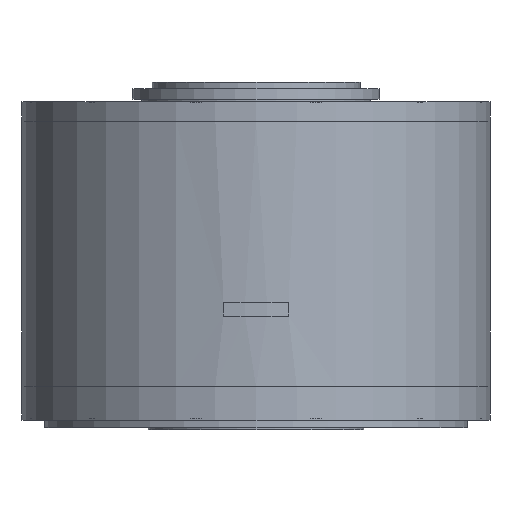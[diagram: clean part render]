
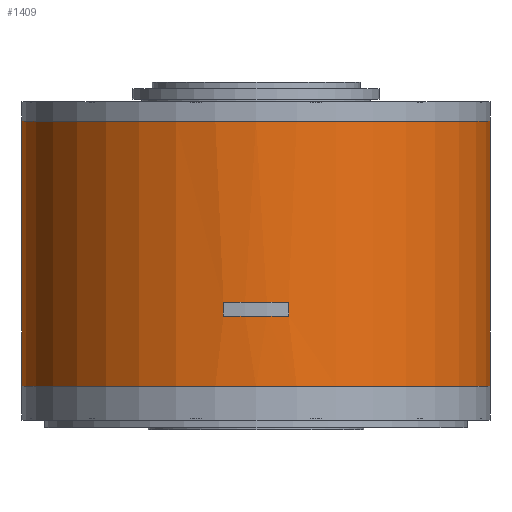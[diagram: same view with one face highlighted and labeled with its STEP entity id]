
A CAD part, front view. The second image highlights one B-rep face of the part: STEP entity #1409.
In plain terms, the highlighted cylindrical face has radius 180 mm (diameter 360 mm), a partial arc.
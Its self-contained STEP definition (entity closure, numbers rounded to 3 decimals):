
#82 = VERTEX_POINT ( 'NONE', #2196 ) ;
#83 = VERTEX_POINT ( 'NONE', #2197 ) ;
#84 = VERTEX_POINT ( 'NONE', #2198 ) ;
#85 = VERTEX_POINT ( 'NONE', #2199 ) ;
#604 = EDGE_CURVE ( 'NONE', #83, #85, #2359, .T. ) ;
#605 = EDGE_CURVE ( 'NONE', #14575, #14571, #2365, .T. ) ;
#606 = EDGE_CURVE ( 'NONE', #82, #83, #2366, .T. ) ;
#607 = EDGE_CURVE ( 'NONE', #14573, #14574, #2368, .T. ) ;
#608 = EDGE_CURVE ( 'NONE', #84, #82, #2367, .T. ) ;
#609 = EDGE_CURVE ( 'NONE', #85, #84, #2371, .T. ) ;
#1409 = ADVANCED_FACE ( 'NONE', ( #10001, #10002 ), #10008, .T. ) ;
#1596 = AXIS2_PLACEMENT_3D ( 'NONE', #3015, #3024, #3025 ) ;
#1599 = AXIS2_PLACEMENT_3D ( 'NONE', #3011, #3021, #3022 ) ;
#1600 = AXIS2_PLACEMENT_3D ( 'NONE', #3020, #3027, #3028 ) ;
#1602 = AXIS2_PLACEMENT_3D ( 'NONE', #3029, #3032, #3033 ) ;
#2196 = CARTESIAN_POINT ( 'NONE',  ( 25., -178.255, -154.5 ) ) ;
#2197 = CARTESIAN_POINT ( 'NONE',  ( -25., -178.255, -154.5 ) ) ;
#2198 = CARTESIAN_POINT ( 'NONE',  ( 25., -178.255, -165. ) ) ;
#2199 = CARTESIAN_POINT ( 'NONE',  ( -25., -178.255, -165. ) ) ;
#2359 = LINE ( 'NONE', #3018, #2360 ) ;
#2360 = VECTOR ( 'NONE', #3019, 1000. ) ;
#2364 = VECTOR ( 'NONE', #3030, 1000. ) ;
#2365 = CIRCLE ( 'NONE', #1599, 180. ) ;
#2366 = CIRCLE ( 'NONE', #1596, 180. ) ;
#2367 = LINE ( 'NONE', #3023, #2364 ) ;
#2368 = CIRCLE ( 'NONE', #1600, 180. ) ;
#2371 = CIRCLE ( 'NONE', #1602, 180. ) ;
#3011 = CARTESIAN_POINT ( 'NONE',  ( 0., 0., -218.9 ) ) ;
#3015 = CARTESIAN_POINT ( 'NONE',  ( 0., 0., -154.5 ) ) ;
#3018 = CARTESIAN_POINT ( 'NONE',  ( -25., -178.255, 0. ) ) ;
#3019 = DIRECTION ( 'NONE',  ( 0., 0., -1. ) ) ;
#3020 = CARTESIAN_POINT ( 'NONE',  ( 0., 0., -15.1 ) ) ;
#3021 = DIRECTION ( 'NONE',  ( 0., 0., -1. ) ) ;
#3022 = DIRECTION ( 'NONE',  ( -1., 0., 0. ) ) ;
#3023 = CARTESIAN_POINT ( 'NONE',  ( 25., -178.255, 0. ) ) ;
#3024 = DIRECTION ( 'NONE',  ( 0., 0., -1. ) ) ;
#3025 = DIRECTION ( 'NONE',  ( -1., 0., 0. ) ) ;
#3027 = DIRECTION ( 'NONE',  ( 0., 0., 1. ) ) ;
#3028 = DIRECTION ( 'NONE',  ( 1., 0., 0. ) ) ;
#3029 = CARTESIAN_POINT ( 'NONE',  ( 0., 0., -165. ) ) ;
#3030 = DIRECTION ( 'NONE',  ( 0., 0., 1. ) ) ;
#3032 = DIRECTION ( 'NONE',  ( 0., 0., 1. ) ) ;
#3033 = DIRECTION ( 'NONE',  ( 1., 0., 0. ) ) ;
#4702 = EDGE_LOOP ( 'NONE', ( #5997, #5998, #5999, #6000 ) ) ;
#4723 = EDGE_LOOP ( 'NONE', ( #6001, #6002, #6003, #6004 ) ) ;
#5023 = CARTESIAN_POINT ( 'NONE',  ( 0., 0., 0. ) ) ;
#5024 = DIRECTION ( 'NONE',  ( 0., 0., 1. ) ) ;
#5025 = DIRECTION ( 'NONE',  ( 1., 0., 0. ) ) ;
#5997 = ORIENTED_EDGE ( 'NONE', *, *, #14974, .F. ) ;
#5998 = ORIENTED_EDGE ( 'NONE', *, *, #605, .F. ) ;
#5999 = ORIENTED_EDGE ( 'NONE', *, *, #14976, .T. ) ;
#6000 = ORIENTED_EDGE ( 'NONE', *, *, #607, .F. ) ;
#6001 = ORIENTED_EDGE ( 'NONE', *, *, #606, .F. ) ;
#6002 = ORIENTED_EDGE ( 'NONE', *, *, #608, .F. ) ;
#6003 = ORIENTED_EDGE ( 'NONE', *, *, #609, .F. ) ;
#6004 = ORIENTED_EDGE ( 'NONE', *, *, #604, .F. ) ;
#10001 = FACE_OUTER_BOUND ( 'NONE', #4702, .T. ) ;
#10002 = FACE_BOUND ( 'NONE', #4723, .T. ) ;
#10008 = CYLINDRICAL_SURFACE ( 'NONE', #10226, 180. ) ;
#10226 = AXIS2_PLACEMENT_3D ( 'NONE', #5023, #5024, #5025 ) ;
#11970 = CARTESIAN_POINT ( 'NONE',  ( -180., 0., -218.9 ) ) ;
#11972 = CARTESIAN_POINT ( 'NONE',  ( -180., 0., -15.1 ) ) ;
#11973 = CARTESIAN_POINT ( 'NONE',  ( 180., 0., -15.1 ) ) ;
#11974 = CARTESIAN_POINT ( 'NONE',  ( 180., 0., -218.9 ) ) ;
#12613 = LINE ( 'NONE', #13334, #12620 ) ;
#12618 = LINE ( 'NONE', #13340, #12619 ) ;
#12619 = VECTOR ( 'NONE', #13341, 1000. ) ;
#12620 = VECTOR ( 'NONE', #13335, 1000. ) ;
#13334 = CARTESIAN_POINT ( 'NONE',  ( -180., 0., 0. ) ) ;
#13335 = DIRECTION ( 'NONE',  ( 0., 0., 1. ) ) ;
#13340 = CARTESIAN_POINT ( 'NONE',  ( 180., 0., 0. ) ) ;
#13341 = DIRECTION ( 'NONE',  ( 0., 0., 1. ) ) ;
#14571 = VERTEX_POINT ( 'NONE', #11970 ) ;
#14573 = VERTEX_POINT ( 'NONE', #11972 ) ;
#14574 = VERTEX_POINT ( 'NONE', #11973 ) ;
#14575 = VERTEX_POINT ( 'NONE', #11974 ) ;
#14974 = EDGE_CURVE ( 'NONE', #14571, #14573, #12613, .T. ) ;
#14976 = EDGE_CURVE ( 'NONE', #14575, #14574, #12618, .T. ) ;
